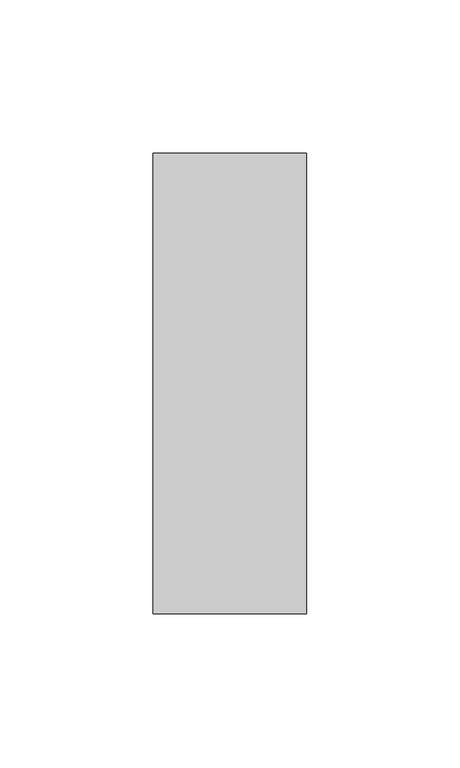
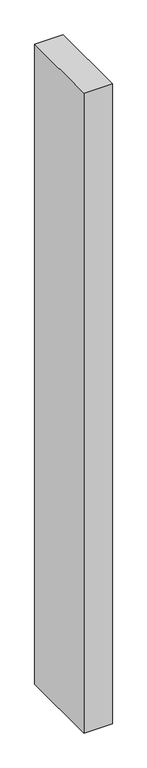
"""IFC4 building model written with IfcOpenShell, lengths in millimetres: member geometry, Прямоугольный импост : 50 x 150 мм."""

import ifcopenshell
import ifcopenshell.guid

model = None  # the IFC model being written
_history = None  # IfcOwnerHistory: only IFC2X3 demands one
_inside = {}  # id of a spatial element -> (the spatial element, [elements in it])
_under = {}  # id of a project, library or spatial element -> (it, [spatial elements below it])
_declared = {}  # id of a project -> (the project, [libraries it declares])
_typed = {}  # id of a type object -> (the type object, [elements of that type])
_made_of = {}  # id of a material, layer set ... -> (it, [elements and type objects made of it])


def new_model(schema):
    """Start an empty IFC model of exactly this schema.

    Asked for "IFC4X3", IfcOpenShell would pick the latest addendum, in which some entities
    have other attributes; the version numbers below select the first issue.
    IFC2X3 requires an IfcOwnerHistory on every rooted entity: one is made here for all.
    """
    global model, _history
    if schema == "IFC4X3":
        model = ifcopenshell.file(schema_version=(4, 3, 0, 0))
    else:
        model = ifcopenshell.file(schema=schema)
    _inside.clear()
    _under.clear()
    _declared.clear()
    _typed.clear()
    _made_of.clear()
    _history = None
    if model.schema == "IFC2X3":
        org = make("IfcOrganization", Name="unknown")
        user = make(
            "IfcPersonAndOrganization",
            ThePerson=make("IfcPerson", FamilyName="unknown"),
            TheOrganization=org,
        )
        app = make(
            "IfcApplication",
            ApplicationDeveloper=org,
            Version="unknown",
            ApplicationFullName="unknown",
            ApplicationIdentifier="unknown",
        )
        _history = make(
            "IfcOwnerHistory",
            OwningUser=user,
            OwningApplication=app,
            ChangeAction="ADDED",
            CreationDate=0,
        )
    return model


def make(cls, **values):
    """One entity of the class cls with the attributes given. An attribute that is None is left unset."""
    return model.create_entity(
        cls, **{name: value for name, value in values.items() if value is not None}
    )


def rooted(cls, **values):
    """An entity with a GlobalId (a new one), such as an element, a storey or a relation."""
    return make(cls, GlobalId=ifcopenshell.guid.new(), OwnerHistory=_history, **values)


def si_unit(unit_type, name, prefix=None):
    """IfcSIUnit, for example si_unit("LENGTHUNIT", "METRE", prefix="MILLI")."""
    return make("IfcSIUnit", UnitType=unit_type, Prefix=prefix, Name=name)


def assignment(units):
    """IfcUnitAssignment: the units of a project."""
    return None if units is None else make("IfcUnitAssignment", Units=units)


def point(xyz):
    """IfcCartesianPoint."""
    return None if xyz is None else make("IfcCartesianPoint", Coordinates=xyz)


def direction(xyz):
    """IfcDirection."""
    return None if xyz is None else make("IfcDirection", DirectionRatios=xyz)


def frame(location, z_axis=None, x_axis=None):
    """IfcAxis2Placement3D, a coordinate frame: its origin and axes. An axis left out is left unset."""
    return make(
        "IfcAxis2Placement3D",
        Location=point(location),
        Axis=direction(z_axis),
        RefDirection=direction(x_axis),
    )


def origin():
    """The frame at (0, 0, 0) with its axes left unset."""
    return frame((0.0, 0.0, 0.0))


def place(relative_to, where):
    """IfcLocalPlacement: puts the frame where relative to a parent placement (None: the world)."""
    return make(
        "IfcLocalPlacement", PlacementRelTo=relative_to, RelativePlacement=where
    )


def context(
    kind, dimensions, precision=None, world=None, true_north=None, identifier=None
):
    """IfcGeometricRepresentationContext, for example the 3D "Model" context."""
    return make(
        "IfcGeometricRepresentationContext",
        ContextIdentifier=identifier,
        ContextType=kind,
        CoordinateSpaceDimension=dimensions,
        Precision=precision,
        WorldCoordinateSystem=world,
        TrueNorth=true_north,
    )


def project(units=None, contexts=None):
    """IfcProject with its units and contexts."""
    return rooted(
        "IfcProject",
        Name="project",
        RepresentationContexts=contexts,
        UnitsInContext=assignment(units),
    )


def spatial(cls, under=None, at=None, **own):
    """A site, building, storey or space (cls), placed at a placement, below another one or the project."""
    s = rooted(cls, ObjectPlacement=at, **own)
    if under is not None:
        _under.setdefault(under.id(), (under, []))[1].append(s)
    return s


def polyline(points):
    """IfcPolyline through the points."""
    return make("IfcPolyline", Points=[point(p) for p in points])


def outline(outer, holes=None, kind="AREA"):
    """IfcArbitraryClosedProfileDef: a profile drawn as a closed curve; with holes, ...WithVoids."""
    if holes is None:
        return make("IfcArbitraryClosedProfileDef", ProfileType=kind, OuterCurve=outer)
    return make(
        "IfcArbitraryProfileDefWithVoids",
        ProfileType=kind,
        OuterCurve=outer,
        InnerCurves=holes,
    )


def extrude(swept, where, along, depth):
    """IfcExtrudedAreaSolid: the profile swept, set in the frame where, extruded along a direction by depth."""
    return make(
        "IfcExtrudedAreaSolid",
        SweptArea=swept,
        Position=where,
        ExtrudedDirection=direction(along),
        Depth=depth,
    )


def shape(context_of_items, identifier, shape_type, items):
    """IfcShapeRepresentation: the items that make up one representation, for example the "Body"."""
    return make(
        "IfcShapeRepresentation",
        ContextOfItems=context_of_items,
        RepresentationIdentifier=identifier,
        RepresentationType=shape_type,
        Items=items,
    )


def source(mapping_origin, context_of_items, identifier, shape_type, items):
    """IfcRepresentationMap: a shape defined once, which mapped items show again and again."""
    return make(
        "IfcRepresentationMap",
        MappingOrigin=mapping_origin,
        MappedRepresentation=shape(context_of_items, identifier, shape_type, items),
    )


def transform(
    local_origin,
    x_axis=None,
    y_axis=None,
    z_axis=None,
    scale=None,
    scale2=None,
    scale3=None,
    uniform=True,
):
    """IfcCartesianTransformationOperator3D, or its non-uniform kind. x_axis, y_axis, z_axis: its Axis1, 2, 3."""
    if uniform:
        return make(
            "IfcCartesianTransformationOperator3D",
            Axis1=direction(x_axis),
            Axis2=direction(y_axis),
            LocalOrigin=point(local_origin),
            Scale=scale,
            Axis3=direction(z_axis),
        )
    return make(
        "IfcCartesianTransformationOperator3DnonUniform",
        Axis1=direction(x_axis),
        Axis2=direction(y_axis),
        LocalOrigin=point(local_origin),
        Scale=scale,
        Axis3=direction(z_axis),
        Scale2=scale2,
        Scale3=scale3,
    )


def mapped(mapping_source, mapping_target):
    """IfcMappedItem: shows the shape of a source again, moved by a transform."""
    return make(
        "IfcMappedItem", MappingSource=mapping_source, MappingTarget=mapping_target
    )


def made_of(thing, what):
    """Note that an element or type object is made of a material, layer set ...; save() writes the relation."""
    if what is not None:
        _made_of.setdefault(what.id(), (what, []))[1].append(thing)
    return thing


def element(
    cls,
    number,
    at=None,
    inside=None,
    cuts=None,
    type_object=None,
    material=None,
    context=None,
    identifier="Body",
    shape_type=None,
    held_by="IfcProductDefinitionShape",
    body=None,
    shapes=None,
    **own,
):
    """One element of the class cls, such as IfcWall. Its Tag is "e" and its number.

    at: its placement. inside: the storey or other place that contains it. cuts: it is an
    opening in that element (IfcRelVoidsElement). A single representation is given by context,
    identifier, shape_type and body (its items); several are given by shapes. held_by: the class
    of the entity that holds the representations. save() writes the other relations.
    """
    e = rooted(cls, Tag="e%d" % number, ObjectPlacement=at, **own)
    if body is not None:
        shapes = [shape(context, identifier, shape_type, body)]
    if shapes is not None:
        e.Representation = make(held_by, Representations=shapes)
    if inside is not None:
        _inside.setdefault(inside.id(), (inside, []))[1].append(e)
    if cuts is not None:
        rooted(
            "IfcRelVoidsElement", RelatingBuildingElement=cuts, RelatedOpeningElement=e
        )
    if type_object is not None:
        _typed.setdefault(type_object.id(), (type_object, []))[1].append(e)
    return made_of(e, material)


def aggregate(whole, parts):
    """IfcRelAggregates: a whole, such as a stair, and the parts it consists of."""
    return rooted("IfcRelAggregates", RelatingObject=whole, RelatedObjects=parts)


def save(model, path):
    """Write the relations noted so far, then the file.

    IfcRelAggregates (storeys below a building ...), IfcRelContainedInSpatialStructure (elements
    in a storey), IfcRelDefinesByType, IfcRelAssociatesMaterial and IfcRelDeclares: one each for
    every whole, place, type object, material and project.
    """
    for whole, parts in _under.values():
        aggregate(whole, parts)
    for where, things in _inside.values():
        rooted(
            "IfcRelContainedInSpatialStructure",
            RelatedElements=things,
            RelatingStructure=where,
        )
    for kind, things in _typed.values():
        rooted("IfcRelDefinesByType", RelatedObjects=things, RelatingType=kind)
    for what, things in _made_of.values():
        rooted("IfcRelAssociatesMaterial", RelatedObjects=things, RelatingMaterial=what)
    for by, libraries in _declared.values():
        rooted("IfcRelDeclares", RelatingContext=by, RelatedDefinitions=libraries)
    model.write(path)


def member_6d033ec9(model_context):
    return source(origin(), model_context, "Body", "SweptSolid", [
        extrude(outline(polyline([(25.0, 75.0), (25.0, -75.0), (-25.0, -75.0), (-25.0, 75.0), (25.0, 75.0)])), frame((0.0, 0.0, -1189.5333832), z_axis=(0.0, 0.0, 1.0), x_axis=(1.0, 0.0, 0.0)), (0.0, 0.0, 1.0), 1189.5333832),
    ])


if __name__ == "__main__":
    model = new_model("IFC4")
    model_context = context("Model", 3, world=origin())
    ifc_project = project(units=[si_unit("LENGTHUNIT", "METRE", prefix="MILLI")], contexts=[model_context])
    site = spatial("IfcSite", under=ifc_project)
    building = spatial("IfcBuilding", under=site)
    placement = place(None, origin())
    member_shape = member_6d033ec9(model_context)
    element("IfcMember", 1, ObjectType="Прямоугольный импост : 50 x 150 мм", at=placement, inside=building, context=model_context, shape_type="MappedRepresentation", body=[
        mapped(member_shape, transform((0.0, 0.0, 0.0), x_axis=(1.0, 0.0, 0.0), y_axis=(0.0, 1.0, 0.0), z_axis=(0.0, 0.0, 1.0))),
    ])
    save(model, "model.ifc")
